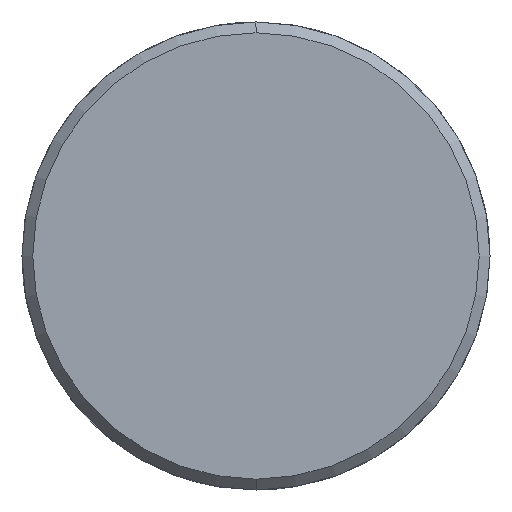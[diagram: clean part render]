
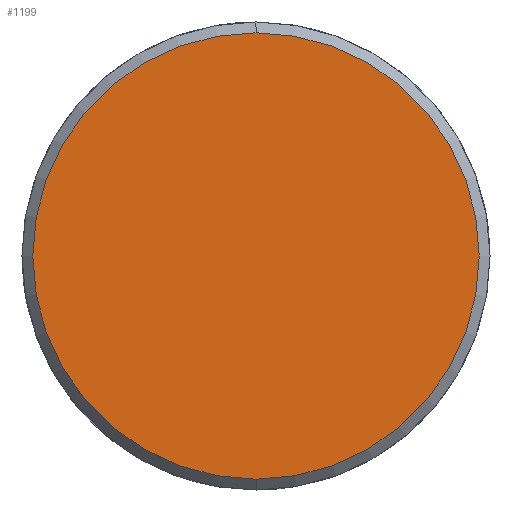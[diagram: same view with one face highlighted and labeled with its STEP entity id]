
A CAD part, left-side view. The second image highlights one B-rep face of the part: STEP entity #1199.
In plain terms, the highlighted planar face has unit normal (-1, 0, 0).
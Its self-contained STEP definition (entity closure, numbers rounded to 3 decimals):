
#1131=CARTESIAN_POINT('Vertex',(-10.,0.,-31.)) ;
#1134=CARTESIAN_POINT('Axis2P3D Location',(-10.,0.,0.)) ;
#1138=CARTESIAN_POINT('Vertex',(-10.,31.,0.)) ;
#1141=CARTESIAN_POINT('Axis2P3D Location',(-10.,0.,0.)) ;
#1145=CARTESIAN_POINT('Vertex',(-10.,0.,31.)) ;
#1167=CARTESIAN_POINT('Axis2P3D Location',(-10.,0.,0.)) ;
#1171=CARTESIAN_POINT('Vertex',(-10.,-31.,0.)) ;
#1174=CARTESIAN_POINT('Axis2P3D Location',(-10.,0.,0.)) ;
#1188=CARTESIAN_POINT('Axis2P3D Location',(-10.,0.,0.)) ;
#1135=DIRECTION('Axis2P3D Direction',(1.,0.,-0.)) ;
#1142=DIRECTION('Axis2P3D Direction',(1.,0.,-0.)) ;
#1168=DIRECTION('Axis2P3D Direction',(1.,0.,-0.)) ;
#1175=DIRECTION('Axis2P3D Direction',(1.,0.,-0.)) ;
#1189=DIRECTION('Axis2P3D Direction',(1.,0.,-0.)) ;
#1190=DIRECTION('Axis2P3D XDirection',(-0.,0.,-1.)) ;
#1136=AXIS2_PLACEMENT_3D('Circle Axis2P3D',#1134,#1135,$) ;
#1143=AXIS2_PLACEMENT_3D('Circle Axis2P3D',#1141,#1142,$) ;
#1169=AXIS2_PLACEMENT_3D('Circle Axis2P3D',#1167,#1168,$) ;
#1176=AXIS2_PLACEMENT_3D('Circle Axis2P3D',#1174,#1175,$) ;
#1191=AXIS2_PLACEMENT_3D('Plane Axis2P3D',#1188,#1189,#1190) ;
#1194=ORIENTED_EDGE('',*,*,#1140,.F.) ;
#1195=ORIENTED_EDGE('',*,*,#1178,.F.) ;
#1196=ORIENTED_EDGE('',*,*,#1173,.F.) ;
#1197=ORIENTED_EDGE('',*,*,#1147,.F.) ;
#1199=ADVANCED_FACE('351-50X96X240',(#1198),#1192,.F.) ;
#1137=CIRCLE('generated circle',#1136,31.) ;
#1144=CIRCLE('generated circle',#1143,31.) ;
#1170=CIRCLE('generated circle',#1169,31.) ;
#1177=CIRCLE('generated circle',#1176,31.) ;
#1140=EDGE_CURVE('',#1132,#1139,#1137,.T.) ;
#1147=EDGE_CURVE('',#1139,#1146,#1144,.T.) ;
#1173=EDGE_CURVE('',#1146,#1172,#1170,.T.) ;
#1178=EDGE_CURVE('',#1172,#1132,#1177,.T.) ;
#1193=EDGE_LOOP('',(#1194,#1195,#1196,#1197)) ;
#1198=FACE_OUTER_BOUND('',#1193,.T.) ;
#1192=PLANE('Plane',#1191) ;
#1132=VERTEX_POINT('',#1131) ;
#1139=VERTEX_POINT('',#1138) ;
#1146=VERTEX_POINT('',#1145) ;
#1172=VERTEX_POINT('',#1171) ;
